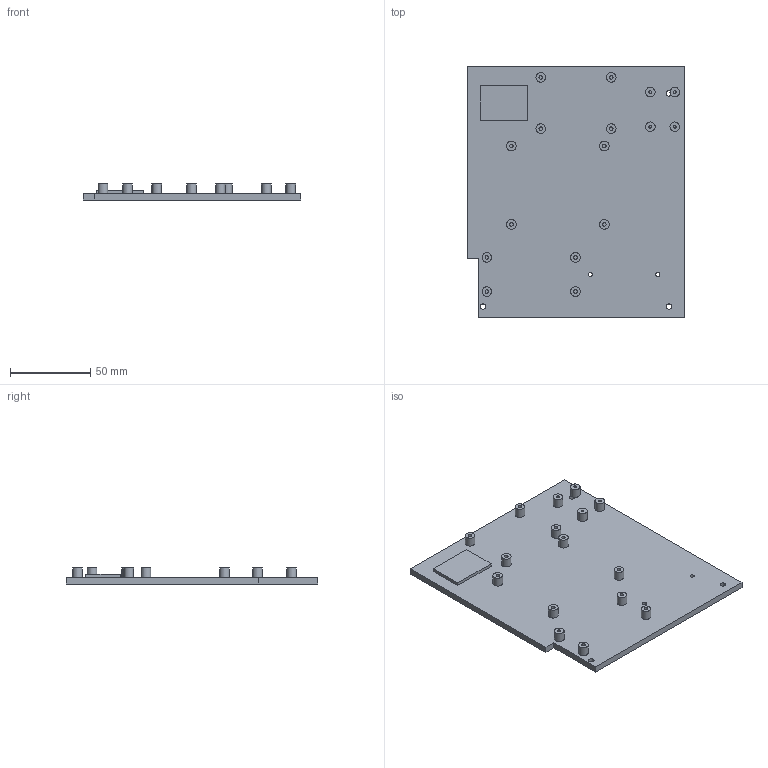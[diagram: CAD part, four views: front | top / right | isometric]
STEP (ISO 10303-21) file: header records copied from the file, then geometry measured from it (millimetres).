
FILE_DESCRIPTION(('Open CASCADE Model'),'2;1');
FILE_NAME('Open CASCADE Shape Model','2026-07-25T17:42:38',('Author'),( 'Open CASCADE'),'Open CASCADE STEP processor 7.9','build123d', 'Unknown');
FILE_SCHEMA(('AUTOMOTIVE_DESIGN { 1 0 10303 214 1 1 1 1 }'));
Length unit declared in the file: millimetre
Products named in the file (1): COMPOUND
Bounding box: 136 x 157 x 10 mm (x, y, z)
Volume: 87777.6 mm3; surface area: 47572.3 mm2
Topology: 1 solids, 1 shells, 590 faces, 1533 edges, 1021 vertices
Faces by surface type: extrusion 299, plane 253, cylinder 38
Full cylindrical faces by diameter (mm): 1.7 x4, 2.2 x12, 2.5 x2, 3.4 x4, 6 x16
Entity records: 43459 total; most frequent: CARTESIAN_POINT 15637, DIRECTION 3732, ORIENTED_EDGE 3066, PCURVE 3066, DEFINITIONAL_REPRESENTATION 3066, VECTOR 2905, LINE 2606, B_SPLINE_CURVE_WITH_KNOTS 2130
